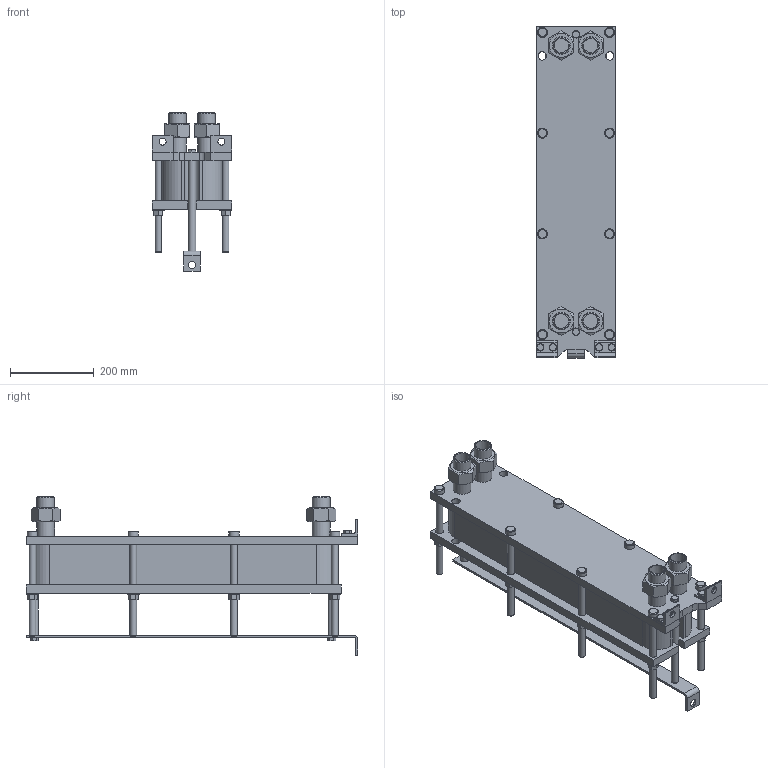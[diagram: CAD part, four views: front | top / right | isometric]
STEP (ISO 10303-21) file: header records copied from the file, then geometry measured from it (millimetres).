
FILE_DESCRIPTION(/* description */ (''),/* implementation_level */ '2;1');
FILE_NAME(/* name */ 'C:\Users\zhuro\Desktop\ENCO\TO\ЭН-008\ЭН-0,5-008-31-1.stp',/* time_stamp */ '2022-06-06T10:47:23+03:00',/* author */ ('zhuro'),/* organization */ (''),/* preprocessor_version */ 'ST-DEVELOPER v18.1',/* originating_system */ 'Autodesk Inventor 2022',/* authorisation */ '');
FILE_SCHEMA (('AUTOMOTIVE_DESIGN { 1 0 10303 214 3 1 1 }'));
Length unit declared in the file: millimetre
Products named in the file (1): ЭН-0,5-008-31-1
Bounding box: 190 x 790 x 377.8 mm (x, y, z)
Volume: 16476214.2 mm3; surface area: 1437865.5 mm2
Topology: 40 solids, 40 shells, 428 faces, 924 edges, 606 vertices
Faces by surface type: plane 273, cylinder 109, cone 40, torus 6
Full cylindrical faces by diameter (mm): 12 x6, 14 x2, 16 x20, 17 x8, 18 x19, 20 x5, 24 x8, 28 x8, 34.3 x8, 42.3 x8
Entity records: 15843 total; most frequent: CARTESIAN_POINT 5991, DIRECTION 1984, ORIENTED_EDGE 1848, EDGE_CURVE 924, AXIS2_PLACEMENT_3D 715, VERTEX_POINT 606, LINE 554, VECTOR 554
